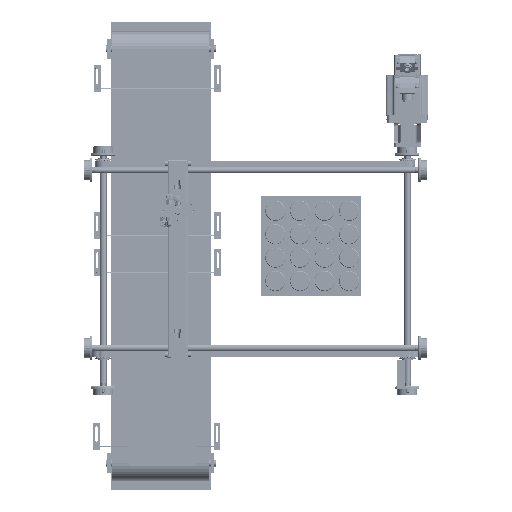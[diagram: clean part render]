
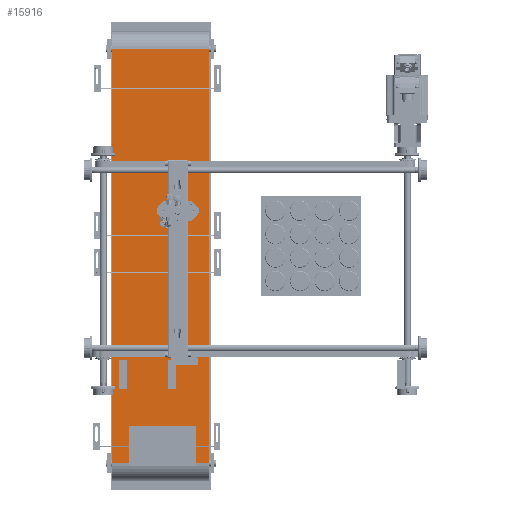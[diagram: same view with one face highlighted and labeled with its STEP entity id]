
A CAD part, top view. The second image highlights one B-rep face of the part: STEP entity #15916.
In plain terms, the highlighted planar face has unit normal (0, 0, 1).
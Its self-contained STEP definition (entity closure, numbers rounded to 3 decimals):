
#15916=ADVANCED_FACE('',(#19839),#18541,.F.);
#18541=PLANE('',#57650);
#19839=FACE_OUTER_BOUND('',#22270,.T.);
#22270=EDGE_LOOP('',(#26087,#26088,#26089,#26090));
#26087=ORIENTED_EDGE('',*,*,#43548,.T.);
#26088=ORIENTED_EDGE('',*,*,#43541,.F.);
#26089=ORIENTED_EDGE('',*,*,#43549,.F.);
#26090=ORIENTED_EDGE('',*,*,#43546,.T.);
#38981=VERTEX_POINT('',#78117);
#38984=VERTEX_POINT('',#78122);
#38987=VERTEX_POINT('',#78132);
#38988=VERTEX_POINT('',#78134);
#43541=EDGE_CURVE('',#38984,#38981,#50221,.T.);
#43546=EDGE_CURVE('',#38988,#38987,#50225,.T.);
#43548=EDGE_CURVE('',#38987,#38981,#50226,.T.);
#43549=EDGE_CURVE('',#38988,#38984,#50227,.T.);
#50221=LINE('',#78123,#53994);
#50225=LINE('',#78133,#53998);
#50226=LINE('',#78137,#53999);
#50227=LINE('',#78138,#54000);
#53994=VECTOR('',#63649,1.);
#53998=VECTOR('',#63659,1.);
#53999=VECTOR('',#63664,1.);
#54000=VECTOR('',#63665,1.);
#57650=AXIS2_PLACEMENT_3D('',#78139,#63666,#63667);
#63649=DIRECTION('',(-1.,0.,0.));
#63659=DIRECTION('',(-1.,0.,0.));
#63664=DIRECTION('',(0.,-1.,0.));
#63665=DIRECTION('',(0.,-1.,0.));
#63666=DIRECTION('',(0.,0.,-1.));
#63667=DIRECTION('',(0.,1.,0.));
#78117=CARTESIAN_POINT('',(0.,0.,51.));
#78122=CARTESIAN_POINT('',(145.,0.,51.));
#78123=CARTESIAN_POINT('',(145.,0.,51.));
#78132=CARTESIAN_POINT('',(0.,620.,51.));
#78133=CARTESIAN_POINT('',(145.,620.,51.));
#78134=CARTESIAN_POINT('',(145.,620.,51.));
#78137=CARTESIAN_POINT('',(0.,620.,51.));
#78138=CARTESIAN_POINT('',(145.,620.,51.));
#78139=CARTESIAN_POINT('',(145.,620.,51.));
